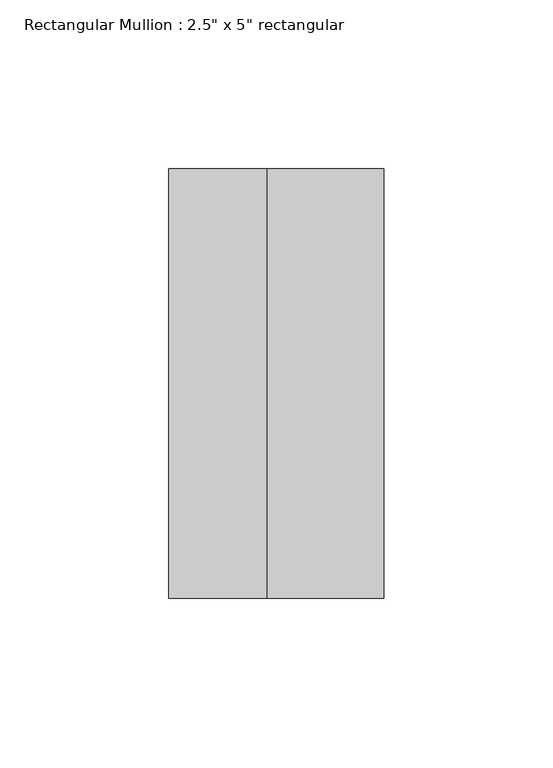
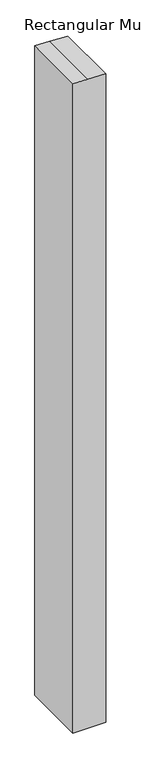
"""IFC4 building model written with IfcOpenShell, lengths in millimetres: member geometry."""

import ifcopenshell
import ifcopenshell.guid

model = None  # the IFC model being written
_history = None  # IfcOwnerHistory: only IFC2X3 demands one
_inside = {}  # id of a spatial element -> (the spatial element, [elements in it])
_under = {}  # id of a project, library or spatial element -> (it, [spatial elements below it])
_declared = {}  # id of a project -> (the project, [libraries it declares])
_typed = {}  # id of a type object -> (the type object, [elements of that type])
_made_of = {}  # id of a material, layer set ... -> (it, [elements and type objects made of it])


def new_model(schema):
    """Start an empty IFC model of exactly this schema.

    Asked for "IFC4X3", IfcOpenShell would pick the latest addendum, in which some entities
    have other attributes; the version numbers below select the first issue.
    IFC2X3 requires an IfcOwnerHistory on every rooted entity: one is made here for all.
    """
    global model, _history
    if schema == "IFC4X3":
        model = ifcopenshell.file(schema_version=(4, 3, 0, 0))
    else:
        model = ifcopenshell.file(schema=schema)
    _inside.clear()
    _under.clear()
    _declared.clear()
    _typed.clear()
    _made_of.clear()
    _history = None
    if model.schema == "IFC2X3":
        org = make("IfcOrganization", Name="unknown")
        user = make(
            "IfcPersonAndOrganization",
            ThePerson=make("IfcPerson", FamilyName="unknown"),
            TheOrganization=org,
        )
        app = make(
            "IfcApplication",
            ApplicationDeveloper=org,
            Version="unknown",
            ApplicationFullName="unknown",
            ApplicationIdentifier="unknown",
        )
        _history = make(
            "IfcOwnerHistory",
            OwningUser=user,
            OwningApplication=app,
            ChangeAction="ADDED",
            CreationDate=0,
        )
    return model


def make(cls, **values):
    """One entity of the class cls with the attributes given. An attribute that is None is left unset."""
    return model.create_entity(
        cls, **{name: value for name, value in values.items() if value is not None}
    )


def rooted(cls, **values):
    """An entity with a GlobalId (a new one), such as an element, a storey or a relation."""
    return make(cls, GlobalId=ifcopenshell.guid.new(), OwnerHistory=_history, **values)


def si_unit(unit_type, name, prefix=None):
    """IfcSIUnit, for example si_unit("LENGTHUNIT", "METRE", prefix="MILLI")."""
    return make("IfcSIUnit", UnitType=unit_type, Prefix=prefix, Name=name)


def assignment(units):
    """IfcUnitAssignment: the units of a project."""
    return None if units is None else make("IfcUnitAssignment", Units=units)


def point(xyz):
    """IfcCartesianPoint."""
    return None if xyz is None else make("IfcCartesianPoint", Coordinates=xyz)


def direction(xyz):
    """IfcDirection."""
    return None if xyz is None else make("IfcDirection", DirectionRatios=xyz)


def frame(location, z_axis=None, x_axis=None):
    """IfcAxis2Placement3D, a coordinate frame: its origin and axes. An axis left out is left unset."""
    return make(
        "IfcAxis2Placement3D",
        Location=point(location),
        Axis=direction(z_axis),
        RefDirection=direction(x_axis),
    )


def origin():
    """The frame at (0, 0, 0) with its axes left unset."""
    return frame((0.0, 0.0, 0.0))


def place(relative_to, where):
    """IfcLocalPlacement: puts the frame where relative to a parent placement (None: the world)."""
    return make(
        "IfcLocalPlacement", PlacementRelTo=relative_to, RelativePlacement=where
    )


def context(
    kind, dimensions, precision=None, world=None, true_north=None, identifier=None
):
    """IfcGeometricRepresentationContext, for example the 3D "Model" context."""
    return make(
        "IfcGeometricRepresentationContext",
        ContextIdentifier=identifier,
        ContextType=kind,
        CoordinateSpaceDimension=dimensions,
        Precision=precision,
        WorldCoordinateSystem=world,
        TrueNorth=true_north,
    )


def project(units=None, contexts=None):
    """IfcProject with its units and contexts."""
    return rooted(
        "IfcProject",
        Name="project",
        RepresentationContexts=contexts,
        UnitsInContext=assignment(units),
    )


def spatial(cls, under=None, at=None, **own):
    """A site, building, storey or space (cls), placed at a placement, below another one or the project."""
    s = rooted(cls, ObjectPlacement=at, **own)
    if under is not None:
        _under.setdefault(under.id(), (under, []))[1].append(s)
    return s


def polyline(points):
    """IfcPolyline through the points."""
    return make("IfcPolyline", Points=[point(p) for p in points])


def outline(outer, holes=None, kind="AREA"):
    """IfcArbitraryClosedProfileDef: a profile drawn as a closed curve; with holes, ...WithVoids."""
    if holes is None:
        return make("IfcArbitraryClosedProfileDef", ProfileType=kind, OuterCurve=outer)
    return make(
        "IfcArbitraryProfileDefWithVoids",
        ProfileType=kind,
        OuterCurve=outer,
        InnerCurves=holes,
    )


def extrude(swept, where, along, depth):
    """IfcExtrudedAreaSolid: the profile swept, set in the frame where, extruded along a direction by depth."""
    return make(
        "IfcExtrudedAreaSolid",
        SweptArea=swept,
        Position=where,
        ExtrudedDirection=direction(along),
        Depth=depth,
    )


def shape(context_of_items, identifier, shape_type, items):
    """IfcShapeRepresentation: the items that make up one representation, for example the "Body"."""
    return make(
        "IfcShapeRepresentation",
        ContextOfItems=context_of_items,
        RepresentationIdentifier=identifier,
        RepresentationType=shape_type,
        Items=items,
    )


def source(mapping_origin, context_of_items, identifier, shape_type, items):
    """IfcRepresentationMap: a shape defined once, which mapped items show again and again."""
    return make(
        "IfcRepresentationMap",
        MappingOrigin=mapping_origin,
        MappedRepresentation=shape(context_of_items, identifier, shape_type, items),
    )


def transform(
    local_origin,
    x_axis=None,
    y_axis=None,
    z_axis=None,
    scale=None,
    scale2=None,
    scale3=None,
    uniform=True,
):
    """IfcCartesianTransformationOperator3D, or its non-uniform kind. x_axis, y_axis, z_axis: its Axis1, 2, 3."""
    if uniform:
        return make(
            "IfcCartesianTransformationOperator3D",
            Axis1=direction(x_axis),
            Axis2=direction(y_axis),
            LocalOrigin=point(local_origin),
            Scale=scale,
            Axis3=direction(z_axis),
        )
    return make(
        "IfcCartesianTransformationOperator3DnonUniform",
        Axis1=direction(x_axis),
        Axis2=direction(y_axis),
        LocalOrigin=point(local_origin),
        Scale=scale,
        Axis3=direction(z_axis),
        Scale2=scale2,
        Scale3=scale3,
    )


def mapped(mapping_source, mapping_target):
    """IfcMappedItem: shows the shape of a source again, moved by a transform."""
    return make(
        "IfcMappedItem", MappingSource=mapping_source, MappingTarget=mapping_target
    )


def made_of(thing, what):
    """Note that an element or type object is made of a material, layer set ...; save() writes the relation."""
    if what is not None:
        _made_of.setdefault(what.id(), (what, []))[1].append(thing)
    return thing


def element(
    cls,
    number,
    at=None,
    inside=None,
    cuts=None,
    type_object=None,
    material=None,
    context=None,
    identifier="Body",
    shape_type=None,
    held_by="IfcProductDefinitionShape",
    body=None,
    shapes=None,
    **own,
):
    """One element of the class cls, such as IfcWall. Its Tag is "e" and its number.

    at: its placement. inside: the storey or other place that contains it. cuts: it is an
    opening in that element (IfcRelVoidsElement). A single representation is given by context,
    identifier, shape_type and body (its items); several are given by shapes. held_by: the class
    of the entity that holds the representations. save() writes the other relations.
    """
    e = rooted(cls, Tag="e%d" % number, ObjectPlacement=at, **own)
    if body is not None:
        shapes = [shape(context, identifier, shape_type, body)]
    if shapes is not None:
        e.Representation = make(held_by, Representations=shapes)
    if inside is not None:
        _inside.setdefault(inside.id(), (inside, []))[1].append(e)
    if cuts is not None:
        rooted(
            "IfcRelVoidsElement", RelatingBuildingElement=cuts, RelatedOpeningElement=e
        )
    if type_object is not None:
        _typed.setdefault(type_object.id(), (type_object, []))[1].append(e)
    return made_of(e, material)


def aggregate(whole, parts):
    """IfcRelAggregates: a whole, such as a stair, and the parts it consists of."""
    return rooted("IfcRelAggregates", RelatingObject=whole, RelatedObjects=parts)


def save(model, path):
    """Write the relations noted so far, then the file.

    IfcRelAggregates (storeys below a building ...), IfcRelContainedInSpatialStructure (elements
    in a storey), IfcRelDefinesByType, IfcRelAssociatesMaterial and IfcRelDeclares: one each for
    every whole, place, type object, material and project.
    """
    for whole, parts in _under.values():
        aggregate(whole, parts)
    for where, things in _inside.values():
        rooted(
            "IfcRelContainedInSpatialStructure",
            RelatedElements=things,
            RelatingStructure=where,
        )
    for kind, things in _typed.values():
        rooted("IfcRelDefinesByType", RelatedObjects=things, RelatingType=kind)
    for what, things in _made_of.values():
        rooted("IfcRelAssociatesMaterial", RelatedObjects=things, RelatingMaterial=what)
    for by, libraries in _declared.values():
        rooted("IfcRelDeclares", RelatingContext=by, RelatedDefinitions=libraries)
    model.write(path)


def member_0b391e03(model_context):
    return source(origin(), model_context, "Body", "SweptSolid", [
        extrude(outline(polyline([(-64.8775557, 31.75), (-63.4449853, -2.6426951), (-62.232569, -31.75), (-1388.9306456, -31.75), (-1388.9306456, 31.75), (-64.8775557, 31.75)])), frame((0.0, -63.5, 0.0), z_axis=(0.0, 1.0, 0.0), x_axis=(0.0, 0.0, 1.0)), (0.0, 0.0, 1.0), 127.0),
    ])


if __name__ == "__main__":
    model = new_model("IFC4")
    model_context = context("Model", 3, world=origin())
    ifc_project = project(units=[si_unit("LENGTHUNIT", "METRE", prefix="MILLI")], contexts=[model_context])
    site = spatial("IfcSite", under=ifc_project)
    building = spatial("IfcBuilding", under=site)
    placement = place(None, origin())
    member_shape = member_0b391e03(model_context)
    element("IfcMember", 1, ObjectType="Rectangular Mullion : 2.5\" x 5\" rectangular", at=placement, inside=building, context=model_context, shape_type="MappedRepresentation", body=[
        mapped(member_shape, transform((0.0, 0.0, 0.0), x_axis=(1.0, 0.0, 0.0), y_axis=(0.0, 1.0, 0.0), z_axis=(0.0, 0.0, 1.0))),
    ])
    save(model, "model.ifc")
